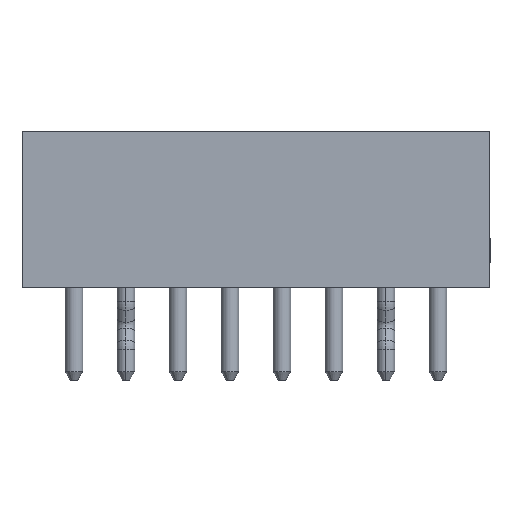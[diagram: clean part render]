
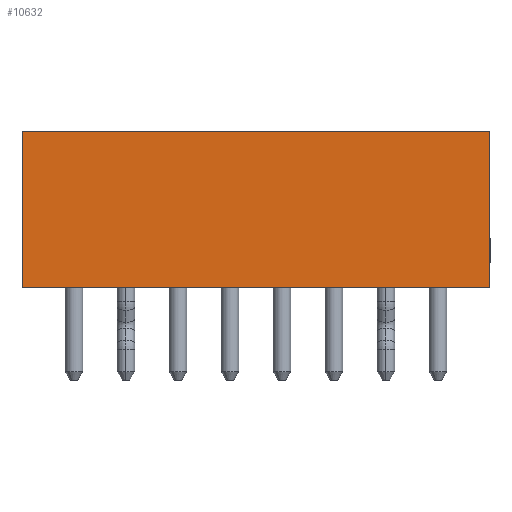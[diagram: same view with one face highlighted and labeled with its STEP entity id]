
A CAD part, front view. The second image highlights one B-rep face of the part: STEP entity #10632.
In plain terms, the highlighted planar face has unit normal (0, -1, 0).
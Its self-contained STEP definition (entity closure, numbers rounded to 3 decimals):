
#368 = CARTESIAN_POINT ( 'NONE',  ( 6.75, -1.75, 4.5 ) ) ;
#416 = VERTEX_POINT ( 'NONE', #3887 ) ;
#1111 = EDGE_CURVE ( 'NONE', #6203, #416, #9233, .T. ) ;
#1467 = CARTESIAN_POINT ( 'NONE',  ( -6.75, -1.75, 4.5 ) ) ;
#1676 = VERTEX_POINT ( 'NONE', #13264 ) ;
#1696 = CARTESIAN_POINT ( 'NONE',  ( -6.75, -1.75, 0. ) ) ;
#2201 = EDGE_CURVE ( 'NONE', #6203, #10093, #15503, .T. ) ;
#2302 = VECTOR ( 'NONE', #13918, 1000. ) ;
#2804 = EDGE_CURVE ( 'NONE', #10093, #1676, #12260, .T. ) ;
#3887 = CARTESIAN_POINT ( 'NONE',  ( -6.75, -1.75, 0. ) ) ;
#4126 = CARTESIAN_POINT ( 'NONE',  ( -6.75, -1.75, 4.5 ) ) ;
#4685 = DIRECTION ( 'NONE',  ( 0., 0., -1. ) ) ;
#5320 = DIRECTION ( 'NONE',  ( 0., 0., 1. ) ) ;
#5510 = ORIENTED_EDGE ( 'NONE', *, *, #1111, .T. ) ;
#5782 = EDGE_LOOP ( 'NONE', ( #6992, #15972, #9202, #5510 ) ) ;
#6203 = VERTEX_POINT ( 'NONE', #12257 ) ;
#6847 = AXIS2_PLACEMENT_3D ( 'NONE', #4126, #15305, #5320 ) ;
#6949 = FACE_OUTER_BOUND ( 'NONE', #5782, .T. ) ;
#6992 = ORIENTED_EDGE ( 'NONE', *, *, #11539, .T. ) ;
#9202 = ORIENTED_EDGE ( 'NONE', *, *, #2201, .F. ) ;
#9233 = LINE ( 'NONE', #1467, #16400 ) ;
#10093 = VERTEX_POINT ( 'NONE', #368 ) ;
#10604 = VECTOR ( 'NONE', #4685, 1000. ) ;
#10632 = ADVANCED_FACE ( 'NONE', ( #6949 ), #14501, .F. ) ;
#11232 = CARTESIAN_POINT ( 'NONE',  ( 6.75, -1.75, 4.5 ) ) ;
#11539 = EDGE_CURVE ( 'NONE', #416, #1676, #15996, .T. ) ;
#11978 = DIRECTION ( 'NONE',  ( 1., 0., 0. ) ) ;
#12257 = CARTESIAN_POINT ( 'NONE',  ( -6.75, -1.75, 4.5 ) ) ;
#12260 = LINE ( 'NONE', #11232, #10604 ) ;
#13264 = CARTESIAN_POINT ( 'NONE',  ( 6.75, -1.75, 0. ) ) ;
#13918 = DIRECTION ( 'NONE',  ( 1., 0., 0. ) ) ;
#14108 = VECTOR ( 'NONE', #11978, 1000. ) ;
#14363 = DIRECTION ( 'NONE',  ( 0., 0., -1. ) ) ;
#14501 = PLANE ( 'NONE',  #6847 ) ;
#15175 = CARTESIAN_POINT ( 'NONE',  ( -6.75, -1.75, 4.5 ) ) ;
#15305 = DIRECTION ( 'NONE',  ( 0., 1., 0. ) ) ;
#15503 = LINE ( 'NONE', #15175, #2302 ) ;
#15972 = ORIENTED_EDGE ( 'NONE', *, *, #2804, .F. ) ;
#15996 = LINE ( 'NONE', #1696, #14108 ) ;
#16400 = VECTOR ( 'NONE', #14363, 1000. ) ;
